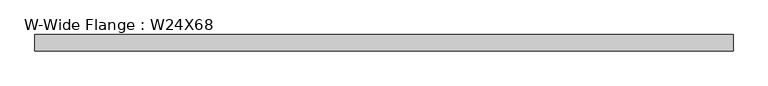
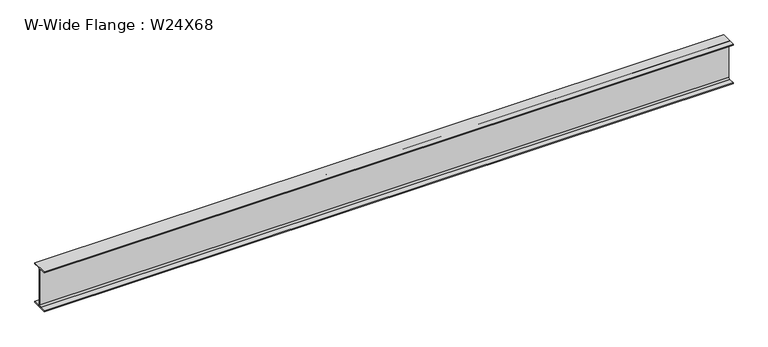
"""IFC4 building model written with IfcOpenShell, lengths in millimetres: beam geometry, W-Wide Flange : W24X68."""

from ifc_helpers import new_model, si_unit, point, frame, frame_2d, origin, place, context, project, spatial, polyline, circle_curve, trimmed, segment, composite_curve, outline, extrude, source, transform, mapped, element, save


def w_wide_flange_w24x68_69d7365b(model_context):
    return source(origin(), model_context, "Body", "SweptSolid", [
        extrude(outline(composite_curve([segment(polyline([(113.919, -286.131), (113.919, -300.99), (-113.919, -300.99), (-113.919, -286.131), (-28.5115, -286.131)]), True, "CONTINUOUS"), segment(trimmed(circle_curve(frame_2d((-28.5115, -262.89)), 23.241), [point((-28.5115, -286.131))], [point((-5.2705, -262.89))], True, "CARTESIAN"), True, "CONTINUOUS"), segment(polyline([(-5.2705, -262.89), (-5.2705, 262.89)]), True, "CONTINUOUS"), segment(trimmed(circle_curve(frame_2d((-28.5115, 262.89)), 23.241), [point((-5.2705, 262.89))], [point((-28.5115, 286.131))], True, "CARTESIAN"), True, "CONTINUOUS"), segment(polyline([(-28.5115, 286.131), (-113.919, 286.131), (-113.919, 300.99), (113.919, 300.99), (113.919, 286.131), (28.5115, 286.131)]), True, "CONTINUOUS"), segment(trimmed(circle_curve(frame_2d((28.5115, 262.89)), 23.241), [point((28.5115, 286.131))], [point((5.2705, 262.89))], True, "CARTESIAN"), True, "CONTINUOUS"), segment(polyline([(5.2705, 262.89), (5.2705, -262.89)]), True, "CONTINUOUS"), segment(trimmed(circle_curve(frame_2d((28.5115, -262.89)), 23.241), [point((5.2705, -262.89))], [point((28.5115, -286.131))], True, "CARTESIAN"), True, "CONTINUOUS"), segment(polyline([(28.5115, -286.131), (113.919, -286.131)]), True, "CONTINUOUS")], self_intersect=False)), frame((-4902.2, 0.0, 0.0), z_axis=(1.0, 0.0, 0.0), x_axis=(0.0, 1.0, 0.0)), (0.0, 0.0, 1.0), 9829.8),
    ])


if __name__ == "__main__":
    model = new_model("IFC4")
    model_context = context("Model", 3, world=origin())
    ifc_project = project(units=[si_unit("LENGTHUNIT", "METRE", prefix="MILLI")], contexts=[model_context])
    site = spatial("IfcSite", under=ifc_project)
    building = spatial("IfcBuilding", under=site)
    placement = place(None, origin())
    w_wide_flange_w24x68_shape = w_wide_flange_w24x68_69d7365b(model_context)
    element("IfcBeam", 1, ObjectType="W-Wide Flange : W24X68", at=placement, inside=building, context=model_context, shape_type="MappedRepresentation", body=[
        mapped(w_wide_flange_w24x68_shape, transform((0.0, 0.0, 0.0), x_axis=(1.0, 0.0, 0.0), y_axis=(0.0, 1.0, 0.0), z_axis=(0.0, 0.0, 1.0))),
    ])
    save(model, "model.ifc")
